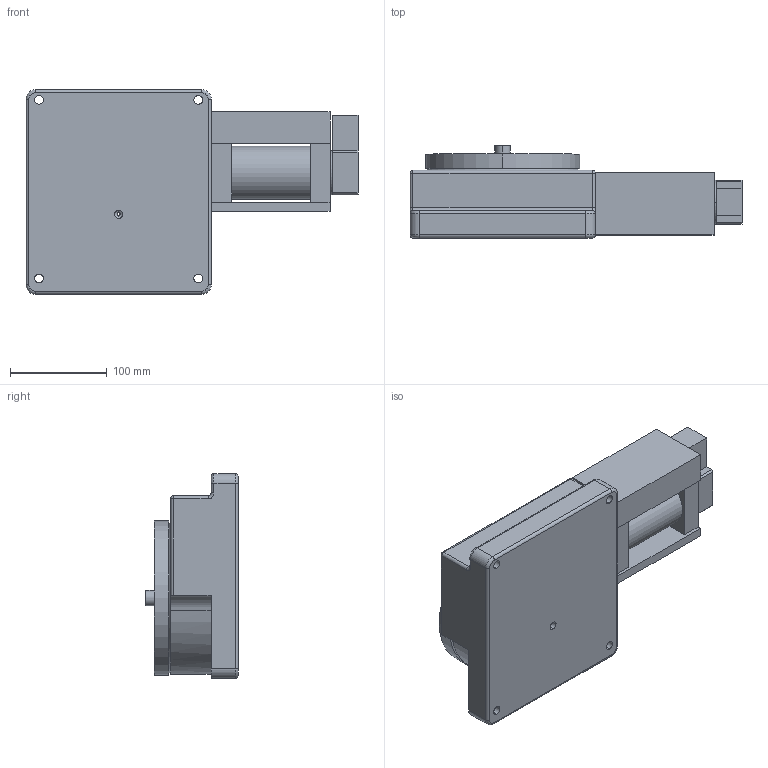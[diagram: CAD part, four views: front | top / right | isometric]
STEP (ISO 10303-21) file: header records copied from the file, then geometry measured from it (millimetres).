
FILE_DESCRIPTION (( 'STEP AP203' ), '1' );
FILE_NAME ('grp 160.STEP', '2014-02-25T06:59:38', ( '' ), ( '' ), 'SwSTEP 2.0', 'SolidWorks 2010', '' );
FILE_SCHEMA (( 'CONFIG_CONTROL_DESIGN' ));
Length unit declared in the file: millimetre
Products named in the file (3): grp 160; plateau; corps
Assembly tree (2 placements, depth 2):
  grp 160
    corps
    plateau
Bounding box: 344 x 95.5 x 212 mm (x, y, z)
Volume: 3496978.6 mm3; surface area: 279965.8 mm2
Topology: 6 solids, 6 shells, 154 faces, 352 edges, 220 vertices
Faces by surface type: cylinder 74, plane 64, torus 8, cone 6, sphere 2
Entity records: 4708 total; most frequent: DIRECTION 825, CARTESIAN_POINT 763, ORIENTED_EDGE 700, EDGE_CURVE 350, AXIS2_PLACEMENT_3D 318, VERTEX_POINT 220, EDGE_LOOP 190, VECTOR 189
